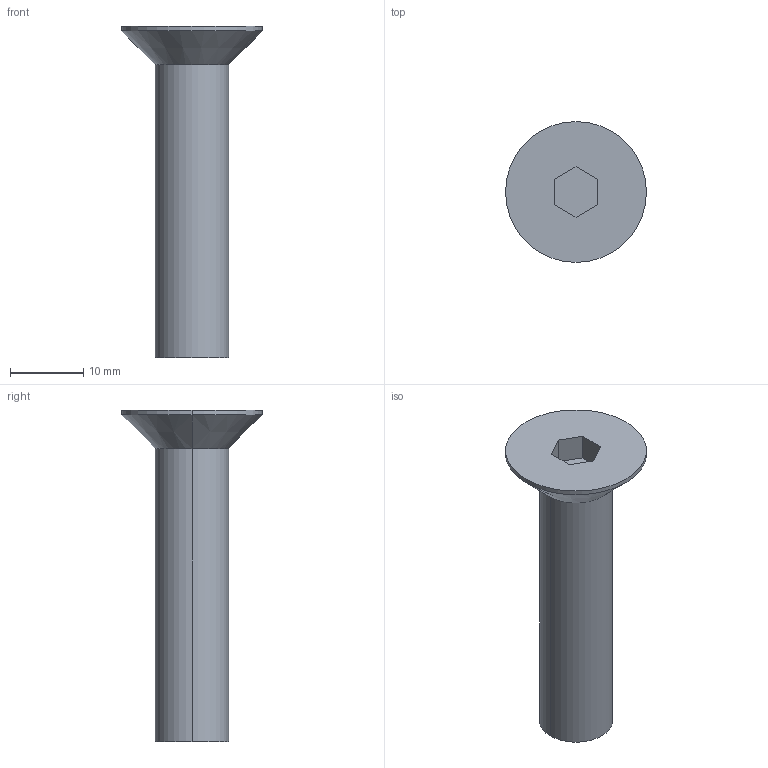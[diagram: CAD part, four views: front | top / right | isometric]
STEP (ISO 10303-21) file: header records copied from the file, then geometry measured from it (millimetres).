
FILE_DESCRIPTION (( 'STEP AP214' ), '1' );
FILE_NAME ('COUNTERSHUNK_HEAD_BOLT_M10(L=040).STEP', '2021-09-18T10:22:05', ( '' ), ( '' ), 'SwSTEP 2.0', 'SolidWorks 2018', '' );
FILE_SCHEMA (( 'AUTOMOTIVE_DESIGN' ));
Length unit declared in the file: millimetre
Products named in the file (1): COUNTERSHUNK_HEAD_BOLT_M10(L=040)
Bounding box: 19.22 x 19.22 x 45.22 mm (x, y, z)
Volume: 4004.8 mm3; surface area: 2036.2 mm2
Topology: 1 solids, 1 shells, 15 faces, 32 edges, 20 vertices
Faces by surface type: plane 9, cylinder 4, cone 2
Entity records: 436 total; most frequent: DIRECTION 72, CARTESIAN_POINT 68, ORIENTED_EDGE 64, EDGE_CURVE 32, LINE 24, VECTOR 24, AXIS2_PLACEMENT_3D 24, VERTEX_POINT 20
